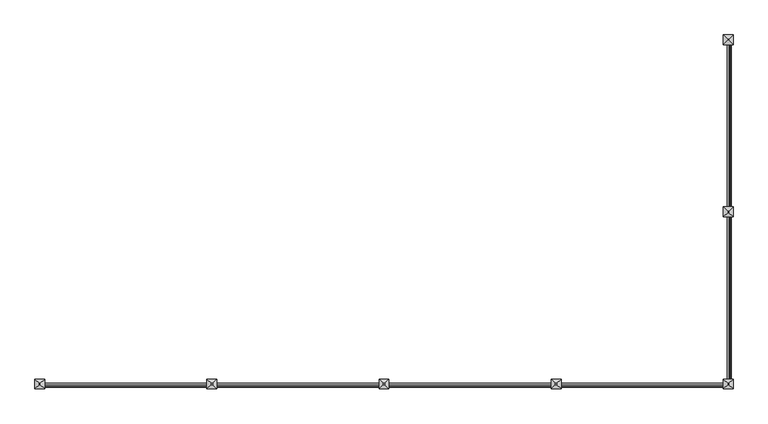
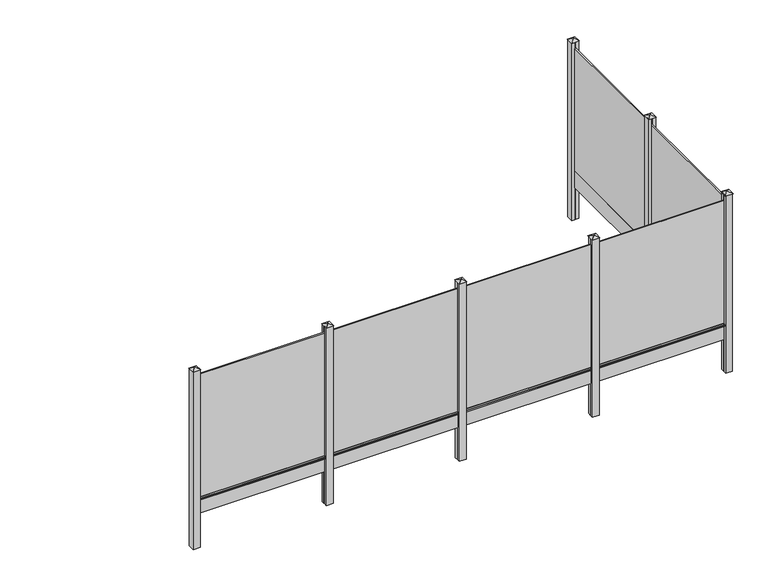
"""IFC4 building model written with IfcOpenShell, lengths in millimetres: railing geometry, Mehat - Railing - Plaque de Soubassement - Pour clôture bois - 192x25x3.5/2 cm."""

from ifc_helpers import new_model, si_unit, point, frame, frame_2d, origin, origin_with_axes, place, context, project, spatial, polyline, circle_curve, trimmed, segment, composite_curve, outline, extrude, faceted_brep, source, transform, mapped, element, save


def railing_06f1b06c(model_context):
    return source(origin(), model_context, "Body", "SolidModel", [
        extrude(outline(polyline([(-40103.7483484, -1437.4943936), (-40120.7483484, -1437.4943936), (-40120.7483484, 482.5056064), (-40103.7483484, 482.5056064), (-40103.7483484, -1437.4943936)])), frame((0.0, 0.0, 250.0), z_axis=(0.0, 0.0, 1.0), x_axis=(1.0, 0.0, 0.0)), (0.0, 0.0, 1.0), 1900.0),
        extrude(outline(polyline([(-40102.2483484, -1437.4943936), (-40122.2483484, -1437.4943936), (-40122.2483484, 482.5056064), (-40102.2483484, 482.5056064), (-40102.2483484, -1437.4943936)])), origin_with_axes(), (0.0, 0.0, 1.0), 250.0),
        extrude(outline(composite_curve([segment(polyline([(210.0, -40102.2483484), (217.1937129, -40080.6672095)]), True, "CONTINUOUS"), segment(trimmed(circle_curve(frame_2d((221.9371294, -40082.2483484)), 5.0), [point((217.1937129, -40080.6672095))], [point((221.9371294, -40077.2483484))], False, "CARTESIAN"), True, "CONTINUOUS"), segment(polyline([(221.9371294, -40077.2483484), (238.0628706, -40077.2483484)]), True, "CONTINUOUS"), segment(trimmed(circle_curve(frame_2d((238.0628706, -40082.2483484)), 5.0), [point((238.0628706, -40077.2483484))], [point((242.8062871, -40080.6672095))], False, "CARTESIAN"), True, "CONTINUOUS"), segment(polyline([(242.8062871, -40080.6672095), (250.0, -40102.2483484), (210.0, -40102.2483484)]), True, "CONTINUOUS")], self_intersect=False)), frame((0.0, -1402.4943936, 0.0), z_axis=(0.0, 1.0, 0.0), x_axis=(0.0, 0.0, 1.0)), (0.0, 0.0, 1.0), 1850.0),
        extrude(outline(polyline([(-40062.2483484, -1502.4943936), (-40102.2483484, -1502.4943936), (-40102.2483484, -1467.4943936), (-40122.2483484, -1467.4943936), (-40122.2483484, -1502.4943936), (-40162.2483484, -1502.4943936), (-40162.2483484, -1402.4943936), (-40122.2483484, -1402.4943936), (-40122.2483484, -1437.4943936), (-40102.2483484, -1437.4943936), (-40102.2483484, -1402.4943936), (-40062.2483484, -1402.4943936), (-40062.2483484, -1502.4943936)])), frame((0.0, 0.0, -500.0), z_axis=(0.0, 0.0, 1.0), x_axis=(1.0, 0.0, 0.0)), (0.0, 0.0, 1.0), 2750.0),
        faceted_brep([(-40118.6528945, -1446.1443936, 2275.4), (-40118.6528945, -1458.8443936, 2275.4), (-40105.9528945, -1458.8443936, 2275.4), (-40105.9528945, -1446.1443936, 2275.4), (-40168.5983484, -1396.1443936, 2250.0), (-40055.8983484, -1396.1443936, 2250.0), (-40055.8983484, -1508.8443936, 2250.0), (-40168.5983484, -1508.8443936, 2250.0)], [[[0, 1, 2, 3]], [[4, 5, 6, 7]], [[4, 0, 3, 5]], [[5, 3, 2, 6]], [[6, 2, 1, 7]], [[7, 1, 0, 4]]]),
        extrude(outline(polyline([(-40103.7483484, -3387.4943936), (-40120.7483484, -3387.4943936), (-40120.7483484, -1467.4943936), (-40103.7483484, -1467.4943936), (-40103.7483484, -3387.4943936)])), frame((0.0, 0.0, 250.0), z_axis=(0.0, 0.0, 1.0), x_axis=(1.0, 0.0, 0.0)), (0.0, 0.0, 1.0), 1900.0),
        extrude(outline(polyline([(-40102.2483484, -3387.4943936), (-40122.2483484, -3387.4943936), (-40122.2483484, -1467.4943936), (-40102.2483484, -1467.4943936), (-40102.2483484, -3387.4943936)])), origin_with_axes(), (0.0, 0.0, 1.0), 250.0),
        extrude(outline(composite_curve([segment(polyline([(210.0, -40102.2483484), (217.1937129, -40080.6672095)]), True, "CONTINUOUS"), segment(trimmed(circle_curve(frame_2d((221.9371294, -40082.2483484)), 5.0), [point((217.1937129, -40080.6672095))], [point((221.9371294, -40077.2483484))], False, "CARTESIAN"), True, "CONTINUOUS"), segment(polyline([(221.9371294, -40077.2483484), (238.0628706, -40077.2483484)]), True, "CONTINUOUS"), segment(trimmed(circle_curve(frame_2d((238.0628706, -40082.2483484)), 5.0), [point((238.0628706, -40077.2483484))], [point((242.8062871, -40080.6672095))], False, "CARTESIAN"), True, "CONTINUOUS"), segment(polyline([(242.8062871, -40080.6672095), (250.0, -40102.2483484), (210.0, -40102.2483484)]), True, "CONTINUOUS")], self_intersect=False)), frame((0.0, -3352.4943936, 0.0), z_axis=(0.0, 1.0, 0.0), x_axis=(0.0, 0.0, 1.0)), (0.0, 0.0, 1.0), 1850.0),
        extrude(outline(polyline([(-42047.2483484, -3410.9943936), (-42047.2483484, -3393.9943936), (-40127.2483484, -3393.9943936), (-40127.2483484, -3410.9943936), (-42047.2483484, -3410.9943936)])), frame((0.0, 0.0, 250.0), z_axis=(0.0, 0.0, 1.0), x_axis=(1.0, 0.0, 0.0)), (0.0, 0.0, 1.0), 1900.0),
        extrude(outline(polyline([(-42047.2483484, -3412.4943936), (-42047.2483484, -3392.4943936), (-40127.2483484, -3392.4943936), (-40127.2483484, -3412.4943936), (-42047.2483484, -3412.4943936)])), origin_with_axes(), (0.0, 0.0, 1.0), 250.0),
        extrude(outline(composite_curve([segment(polyline([(-3412.4943936, 210.0), (-3434.0755325, 217.1937129)]), True, "CONTINUOUS"), segment(trimmed(circle_curve(frame_2d((-3432.4943936, 221.9371294)), 5.0), [point((-3434.0755325, 217.1937129))], [point((-3437.4943936, 221.9371294))], False, "CARTESIAN"), True, "CONTINUOUS"), segment(polyline([(-3437.4943936, 221.9371294), (-3437.4943936, 238.0628706)]), True, "CONTINUOUS"), segment(trimmed(circle_curve(frame_2d((-3432.4943936, 238.0628706)), 5.0), [point((-3437.4943936, 238.0628706))], [point((-3434.0755325, 242.8062871))], False, "CARTESIAN"), True, "CONTINUOUS"), segment(polyline([(-3434.0755325, 242.8062871), (-3412.4943936, 250.0), (-3412.4943936, 210.0)]), True, "CONTINUOUS")], self_intersect=False)), frame((-42012.2483484, 0.0, 0.0), z_axis=(1.0, 0.0, 0.0), x_axis=(0.0, 1.0, 0.0)), (0.0, 0.0, 1.0), 1850.0),
        extrude(outline(polyline([(-42112.2483484, -3452.4943936), (-42112.2483484, -3412.4943936), (-42077.2483484, -3412.4943936), (-42077.2483484, -3392.4943936), (-42112.2483484, -3392.4943936), (-42112.2483484, -3352.4943936), (-42012.2483484, -3352.4943936), (-42012.2483484, -3392.4943936), (-42047.2483484, -3392.4943936), (-42047.2483484, -3412.4943936), (-42012.2483484, -3412.4943936), (-42012.2483484, -3452.4943936), (-42112.2483484, -3452.4943936)])), frame((0.0, 0.0, -500.0), z_axis=(0.0, 0.0, 1.0), x_axis=(1.0, 0.0, 0.0)), (0.0, 0.0, 1.0), 2750.0),
        faceted_brep([(-42055.8983484, -3396.0898475, 2275.4), (-42068.5983484, -3396.0898475, 2275.4), (-42068.5983484, -3408.7898475, 2275.4), (-42055.8983484, -3408.7898475, 2275.4), (-42005.8983484, -3346.1443936, 2250.0), (-42005.8983484, -3458.8443936, 2250.0), (-42118.5983484, -3458.8443936, 2250.0), (-42118.5983484, -3346.1443936, 2250.0)], [[[0, 1, 2, 3]], [[4, 5, 6, 7]], [[4, 0, 3, 5]], [[5, 3, 2, 6]], [[6, 2, 1, 7]], [[7, 1, 0, 4]]]),
        extrude(outline(polyline([(-43997.2483484, -3410.9943936), (-43997.2483484, -3393.9943936), (-42077.2483484, -3393.9943936), (-42077.2483484, -3410.9943936), (-43997.2483484, -3410.9943936)])), frame((0.0, 0.0, 250.0), z_axis=(0.0, 0.0, 1.0), x_axis=(1.0, 0.0, 0.0)), (0.0, 0.0, 1.0), 1900.0),
        extrude(outline(polyline([(-43997.2483484, -3412.4943936), (-43997.2483484, -3392.4943936), (-42077.2483484, -3392.4943936), (-42077.2483484, -3412.4943936), (-43997.2483484, -3412.4943936)])), origin_with_axes(), (0.0, 0.0, 1.0), 250.0),
        extrude(outline(composite_curve([segment(polyline([(-3412.4943936, 210.0), (-3434.0755325, 217.1937129)]), True, "CONTINUOUS"), segment(trimmed(circle_curve(frame_2d((-3432.4943936, 221.9371294)), 5.0), [point((-3434.0755325, 217.1937129))], [point((-3437.4943936, 221.9371294))], False, "CARTESIAN"), True, "CONTINUOUS"), segment(polyline([(-3437.4943936, 221.9371294), (-3437.4943936, 238.0628706)]), True, "CONTINUOUS"), segment(trimmed(circle_curve(frame_2d((-3432.4943936, 238.0628706)), 5.0), [point((-3437.4943936, 238.0628706))], [point((-3434.0755325, 242.8062871))], False, "CARTESIAN"), True, "CONTINUOUS"), segment(polyline([(-3434.0755325, 242.8062871), (-3412.4943936, 250.0), (-3412.4943936, 210.0)]), True, "CONTINUOUS")], self_intersect=False)), frame((-43962.2483484, 0.0, 0.0), z_axis=(1.0, 0.0, 0.0), x_axis=(0.0, 1.0, 0.0)), (0.0, 0.0, 1.0), 1850.0),
        extrude(outline(polyline([(-44062.2483484, -3452.4943936), (-44062.2483484, -3412.4943936), (-44027.2483484, -3412.4943936), (-44027.2483484, -3392.4943936), (-44062.2483484, -3392.4943936), (-44062.2483484, -3352.4943936), (-43962.2483484, -3352.4943936), (-43962.2483484, -3392.4943936), (-43997.2483484, -3392.4943936), (-43997.2483484, -3412.4943936), (-43962.2483484, -3412.4943936), (-43962.2483484, -3452.4943936), (-44062.2483484, -3452.4943936)])), frame((0.0, 0.0, -500.0), z_axis=(0.0, 0.0, 1.0), x_axis=(1.0, 0.0, 0.0)), (0.0, 0.0, 1.0), 2750.0),
        faceted_brep([(-44005.8983484, -3396.0898475, 2275.4), (-44018.5983484, -3396.0898475, 2275.4), (-44018.5983484, -3408.7898475, 2275.4), (-44005.8983484, -3408.7898475, 2275.4), (-43955.8983484, -3346.1443936, 2250.0), (-43955.8983484, -3458.8443936, 2250.0), (-44068.5983484, -3458.8443936, 2250.0), (-44068.5983484, -3346.1443936, 2250.0)], [[[0, 1, 2, 3]], [[4, 5, 6, 7]], [[4, 0, 3, 5]], [[5, 3, 2, 6]], [[6, 2, 1, 7]], [[7, 1, 0, 4]]]),
        extrude(outline(polyline([(-45947.2483484, -3410.9943936), (-45947.2483484, -3393.9943936), (-44027.2483484, -3393.9943936), (-44027.2483484, -3410.9943936), (-45947.2483484, -3410.9943936)])), frame((0.0, 0.0, 250.0), z_axis=(0.0, 0.0, 1.0), x_axis=(1.0, 0.0, 0.0)), (0.0, 0.0, 1.0), 1900.0),
        extrude(outline(polyline([(-45947.2483484, -3412.4943936), (-45947.2483484, -3392.4943936), (-44027.2483484, -3392.4943936), (-44027.2483484, -3412.4943936), (-45947.2483484, -3412.4943936)])), origin_with_axes(), (0.0, 0.0, 1.0), 250.0),
        extrude(outline(composite_curve([segment(polyline([(-3412.4943936, 210.0), (-3434.0755325, 217.1937129)]), True, "CONTINUOUS"), segment(trimmed(circle_curve(frame_2d((-3432.4943936, 221.9371294)), 5.0), [point((-3434.0755325, 217.1937129))], [point((-3437.4943936, 221.9371294))], False, "CARTESIAN"), True, "CONTINUOUS"), segment(polyline([(-3437.4943936, 221.9371294), (-3437.4943936, 238.0628706)]), True, "CONTINUOUS"), segment(trimmed(circle_curve(frame_2d((-3432.4943936, 238.0628706)), 5.0), [point((-3437.4943936, 238.0628706))], [point((-3434.0755325, 242.8062871))], False, "CARTESIAN"), True, "CONTINUOUS"), segment(polyline([(-3434.0755325, 242.8062871), (-3412.4943936, 250.0), (-3412.4943936, 210.0)]), True, "CONTINUOUS")], self_intersect=False)), frame((-45912.2483484, 0.0, 0.0), z_axis=(1.0, 0.0, 0.0), x_axis=(0.0, 1.0, 0.0)), (0.0, 0.0, 1.0), 1850.0),
        extrude(outline(polyline([(-46012.2483484, -3452.4943936), (-46012.2483484, -3412.4943936), (-45977.2483484, -3412.4943936), (-45977.2483484, -3392.4943936), (-46012.2483484, -3392.4943936), (-46012.2483484, -3352.4943936), (-45912.2483484, -3352.4943936), (-45912.2483484, -3392.4943936), (-45947.2483484, -3392.4943936), (-45947.2483484, -3412.4943936), (-45912.2483484, -3412.4943936), (-45912.2483484, -3452.4943936), (-46012.2483484, -3452.4943936)])), frame((0.0, 0.0, -500.0), z_axis=(0.0, 0.0, 1.0), x_axis=(1.0, 0.0, 0.0)), (0.0, 0.0, 1.0), 2750.0),
        faceted_brep([(-45955.8983484, -3396.0898475, 2275.4), (-45968.5983484, -3396.0898475, 2275.4), (-45968.5983484, -3408.7898475, 2275.4), (-45955.8983484, -3408.7898475, 2275.4), (-45905.8983484, -3346.1443936, 2250.0), (-45905.8983484, -3458.8443936, 2250.0), (-46018.5983484, -3458.8443936, 2250.0), (-46018.5983484, -3346.1443936, 2250.0)], [[[0, 1, 2, 3]], [[4, 5, 6, 7]], [[4, 0, 3, 5]], [[5, 3, 2, 6]], [[6, 2, 1, 7]], [[7, 1, 0, 4]]]),
        extrude(outline(polyline([(-47897.2483484, -3410.9943936), (-47897.2483484, -3393.9943936), (-45977.2483484, -3393.9943936), (-45977.2483484, -3410.9943936), (-47897.2483484, -3410.9943936)])), frame((0.0, 0.0, 250.0), z_axis=(0.0, 0.0, 1.0), x_axis=(1.0, 0.0, 0.0)), (0.0, 0.0, 1.0), 1900.0),
        extrude(outline(polyline([(-47897.2483484, -3412.4943936), (-47897.2483484, -3392.4943936), (-45977.2483484, -3392.4943936), (-45977.2483484, -3412.4943936), (-47897.2483484, -3412.4943936)])), origin_with_axes(), (0.0, 0.0, 1.0), 250.0),
        extrude(outline(composite_curve([segment(polyline([(-3412.4943936, 210.0), (-3434.0755325, 217.1937129)]), True, "CONTINUOUS"), segment(trimmed(circle_curve(frame_2d((-3432.4943936, 221.9371294)), 5.0), [point((-3434.0755325, 217.1937129))], [point((-3437.4943936, 221.9371294))], False, "CARTESIAN"), True, "CONTINUOUS"), segment(polyline([(-3437.4943936, 221.9371294), (-3437.4943936, 238.0628706)]), True, "CONTINUOUS"), segment(trimmed(circle_curve(frame_2d((-3432.4943936, 238.0628706)), 5.0), [point((-3437.4943936, 238.0628706))], [point((-3434.0755325, 242.8062871))], False, "CARTESIAN"), True, "CONTINUOUS"), segment(polyline([(-3434.0755325, 242.8062871), (-3412.4943936, 250.0), (-3412.4943936, 210.0)]), True, "CONTINUOUS")], self_intersect=False)), frame((-47862.2483484, 0.0, 0.0), z_axis=(1.0, 0.0, 0.0), x_axis=(0.0, 1.0, 0.0)), (0.0, 0.0, 1.0), 1850.0),
        extrude(outline(polyline([(-40162.2483484, -3452.4943936), (-40162.2483484, -3412.4943936), (-40127.2483484, -3412.4943936), (-40127.2483484, -3392.4943936), (-40162.2483484, -3392.4943936), (-40162.2483484, -3352.4943936), (-40122.2483484, -3352.4943936), (-40122.2483484, -3387.4943936), (-40102.2483484, -3387.4943936), (-40102.2483484, -3352.4943936), (-40062.2483484, -3352.4943936), (-40062.2483484, -3452.4943936), (-40162.2483484, -3452.4943936)])), frame((0.0, 0.0, -500.0), z_axis=(0.0, 0.0, 1.0), x_axis=(1.0, 0.0, 0.0)), (0.0, 0.0, 1.0), 2750.0),
        faceted_brep([(-40105.8983484, -3396.0898475, 2275.4), (-40118.5983484, -3396.0898475, 2275.4), (-40118.5983484, -3408.7898475, 2275.4), (-40105.8983484, -3408.7898475, 2275.4), (-40055.8983484, -3346.1443936, 2250.0), (-40055.8983484, -3458.8443936, 2250.0), (-40168.5983484, -3458.8443936, 2250.0), (-40168.5983484, -3346.1443936, 2250.0)], [[[0, 1, 2, 3]], [[4, 5, 6, 7]], [[4, 0, 3, 5]], [[5, 3, 2, 6]], [[6, 2, 1, 7]], [[7, 1, 0, 4]]]),
        extrude(outline(polyline([(-40062.2483484, 447.5056064), (-40102.2483484, 447.5056064), (-40102.2483484, 482.5056064), (-40122.2483484, 482.5056064), (-40122.2483484, 447.5056064), (-40162.2483484, 447.5056064), (-40162.2483484, 547.5056064), (-40062.2483484, 547.5056064), (-40062.2483484, 447.5056064)])), frame((0.0, 0.0, -500.0), z_axis=(0.0, 0.0, 1.0), x_axis=(1.0, 0.0, 0.0)), (0.0, 0.0, 1.0), 2750.0),
        faceted_brep([(-40118.6528945, 503.8556064, 2275.4), (-40118.6528945, 491.1556064, 2275.4), (-40105.9528945, 491.1556064, 2275.4), (-40105.9528945, 503.8556064, 2275.4), (-40168.5983484, 553.8556064, 2250.0), (-40055.8983484, 553.8556064, 2250.0), (-40055.8983484, 441.1556064, 2250.0), (-40168.5983484, 441.1556064, 2250.0)], [[[0, 1, 2, 3]], [[4, 5, 6, 7]], [[4, 0, 3, 5]], [[5, 3, 2, 6]], [[6, 2, 1, 7]], [[7, 1, 0, 4]]]),
        extrude(outline(polyline([(-47962.2483484, -3452.4943936), (-47962.2483484, -3352.4943936), (-47862.2483484, -3352.4943936), (-47862.2483484, -3392.4943936), (-47897.2483484, -3392.4943936), (-47897.2483484, -3412.4943936), (-47862.2483484, -3412.4943936), (-47862.2483484, -3452.4943936), (-47962.2483484, -3452.4943936)])), frame((0.0, 0.0, -500.0), z_axis=(0.0, 0.0, 1.0), x_axis=(1.0, 0.0, 0.0)), (0.0, 0.0, 1.0), 2750.0),
        faceted_brep([(-47905.8983484, -3396.0898475, 2275.4), (-47918.5983484, -3396.0898475, 2275.4), (-47918.5983484, -3408.7898475, 2275.4), (-47905.8983484, -3408.7898475, 2275.4), (-47855.8983484, -3346.1443936, 2250.0), (-47855.8983484, -3458.8443936, 2250.0), (-47968.5983484, -3458.8443936, 2250.0), (-47968.5983484, -3346.1443936, 2250.0)], [[[0, 1, 2, 3]], [[4, 5, 6, 7]], [[4, 0, 3, 5]], [[5, 3, 2, 6]], [[6, 2, 1, 7]], [[7, 1, 0, 4]]]),
    ])


if __name__ == "__main__":
    model = new_model("IFC4")
    model_context = context("Model", 3, world=origin())
    ifc_project = project(units=[si_unit("LENGTHUNIT", "METRE", prefix="MILLI")], contexts=[model_context])
    site = spatial("IfcSite", under=ifc_project)
    building = spatial("IfcBuilding", under=site)
    placement = place(None, origin())
    railing_shape = railing_06f1b06c(model_context)
    element("IfcRailing", 1, ObjectType="Mehat - Railing - Plaque de Soubassement - Pour clôture bois - 192x25x3.5/2 cm", at=placement, inside=building, context=model_context, shape_type="MappedRepresentation", body=[
        mapped(railing_shape, transform((0.0, 0.0, 0.0), x_axis=(1.0, 0.0, 0.0), y_axis=(0.0, 1.0, 0.0), z_axis=(0.0, 0.0, 1.0))),
    ])
    save(model, "model.ifc")
